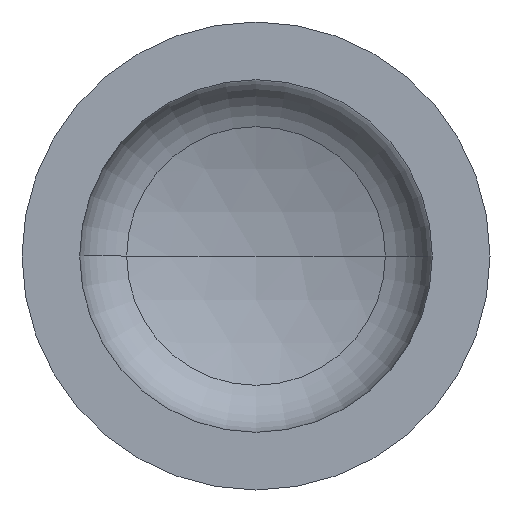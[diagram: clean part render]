
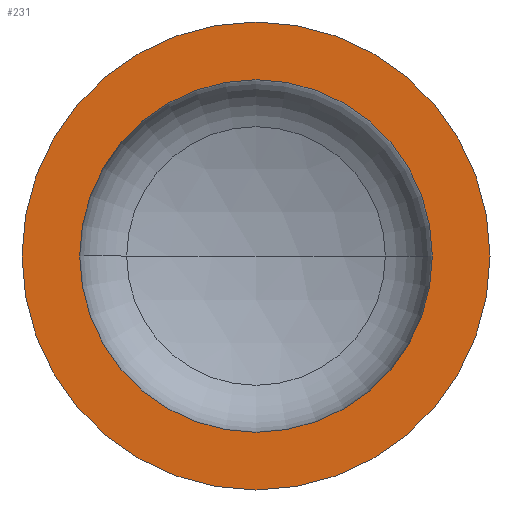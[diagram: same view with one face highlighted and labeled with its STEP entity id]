
A CAD part, front view. The second image highlights one B-rep face of the part: STEP entity #231.
In plain terms, the highlighted planar face has unit normal (0, -1, 0).
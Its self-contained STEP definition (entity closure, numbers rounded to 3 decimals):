
#7 = PLANE ( 'NONE',  #29 ) ;
#24 = AXIS2_PLACEMENT_3D ( 'NONE', #208, #207, #127 ) ;
#29 = AXIS2_PLACEMENT_3D ( 'NONE', #187, #182, #375 ) ;
#44 = AXIS2_PLACEMENT_3D ( 'NONE', #316, #326, #325 ) ;
#45 = AXIS2_PLACEMENT_3D ( 'NONE', #142, #155, #167 ) ;
#46 = AXIS2_PLACEMENT_3D ( 'NONE', #296, #294, #292 ) ;
#55 = EDGE_CURVE ( 'NONE', #280, #386, #234, .T. ) ;
#56 = EDGE_CURVE ( 'NONE', #350, #203, #242, .T. ) ;
#58 = EDGE_CURVE ( 'NONE', #386, #280, #156, .T. ) ;
#59 = CARTESIAN_POINT ( 'NONE',  ( 226., 0., 0. ) ) ;
#104 = CIRCLE ( 'NONE', #24, 226. ) ;
#125 = FACE_OUTER_BOUND ( 'NONE', #186, .T. ) ;
#127 = DIRECTION ( 'NONE',  ( 1., 0., 0. ) ) ;
#142 = CARTESIAN_POINT ( 'NONE',  ( 0., 0., 0. ) ) ;
#155 = DIRECTION ( 'NONE',  ( 0., -1., 0. ) ) ;
#156 = CIRCLE ( 'NONE', #44, 300. ) ;
#162 = ORIENTED_EDGE ( 'NONE', *, *, #58, .T. ) ;
#167 = DIRECTION ( 'NONE',  ( 1., 0., 0. ) ) ;
#169 = CARTESIAN_POINT ( 'NONE',  ( -226., 0., 0. ) ) ;
#178 = CARTESIAN_POINT ( 'NONE',  ( -300., 0., 0. ) ) ;
#182 = DIRECTION ( 'NONE',  ( 0., 1., 0. ) ) ;
#186 = EDGE_LOOP ( 'NONE', ( #162, #346 ) ) ;
#187 = CARTESIAN_POINT ( 'NONE',  ( -300., 0., 0. ) ) ;
#203 = VERTEX_POINT ( 'NONE', #169 ) ;
#207 = DIRECTION ( 'NONE',  ( 0., -1., 0. ) ) ;
#208 = CARTESIAN_POINT ( 'NONE',  ( 0., 0., 0. ) ) ;
#231 = ADVANCED_FACE ( 'NONE', ( #299, #125 ), #7, .F. ) ;
#234 = CIRCLE ( 'NONE', #46, 300. ) ;
#242 = CIRCLE ( 'NONE', #45, 226. ) ;
#270 = ORIENTED_EDGE ( 'NONE', *, *, #284, .F. ) ;
#280 = VERTEX_POINT ( 'NONE', #178 ) ;
#284 = EDGE_CURVE ( 'NONE', #203, #350, #104, .T. ) ;
#292 = DIRECTION ( 'NONE',  ( 1., 0., 0. ) ) ;
#294 = DIRECTION ( 'NONE',  ( 0., -1., 0. ) ) ;
#296 = CARTESIAN_POINT ( 'NONE',  ( 0., 0., 0. ) ) ;
#299 = FACE_BOUND ( 'NONE', #358, .T. ) ;
#316 = CARTESIAN_POINT ( 'NONE',  ( 0., 0., 0. ) ) ;
#325 = DIRECTION ( 'NONE',  ( 1., 0., 0. ) ) ;
#326 = DIRECTION ( 'NONE',  ( 0., -1., 0. ) ) ;
#339 = CARTESIAN_POINT ( 'NONE',  ( 300., 0., 0. ) ) ;
#346 = ORIENTED_EDGE ( 'NONE', *, *, #55, .T. ) ;
#350 = VERTEX_POINT ( 'NONE', #59 ) ;
#358 = EDGE_LOOP ( 'NONE', ( #407, #270 ) ) ;
#375 = DIRECTION ( 'NONE',  ( -1., 0., 0. ) ) ;
#386 = VERTEX_POINT ( 'NONE', #339 ) ;
#407 = ORIENTED_EDGE ( 'NONE', *, *, #56, .F. ) ;
